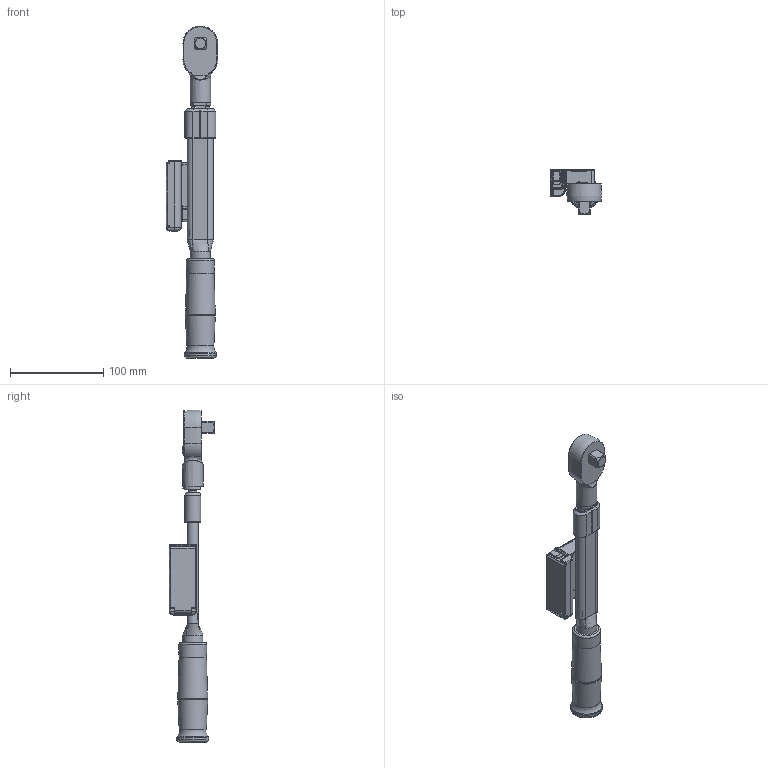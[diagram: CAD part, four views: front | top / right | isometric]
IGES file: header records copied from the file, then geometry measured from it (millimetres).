
Global section: file name: CSPFDD100N3X15D+QH15D; native system: Autodesk Inventor 2016; preprocessor: unknown; author: Q600; date: 20160428.180514; units: millimetre
Bounding box: 55.15 x 48.6 x 355.57 mm (x, y, z)
Surface area: 49859.4 mm2 (no closed solid volume)
Topology: 0 solids, 0 shells, 210 faces, 1428 edges, 1417 vertices
Faces by surface type: revolution 109, bspline 101
